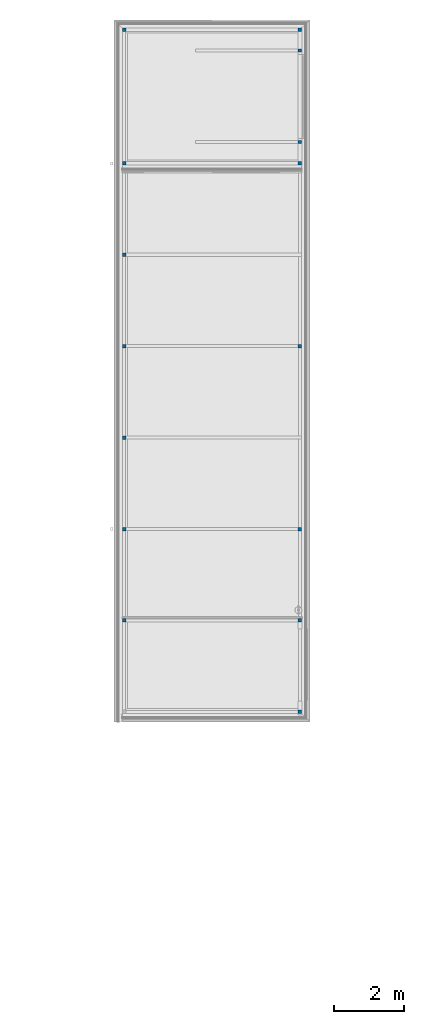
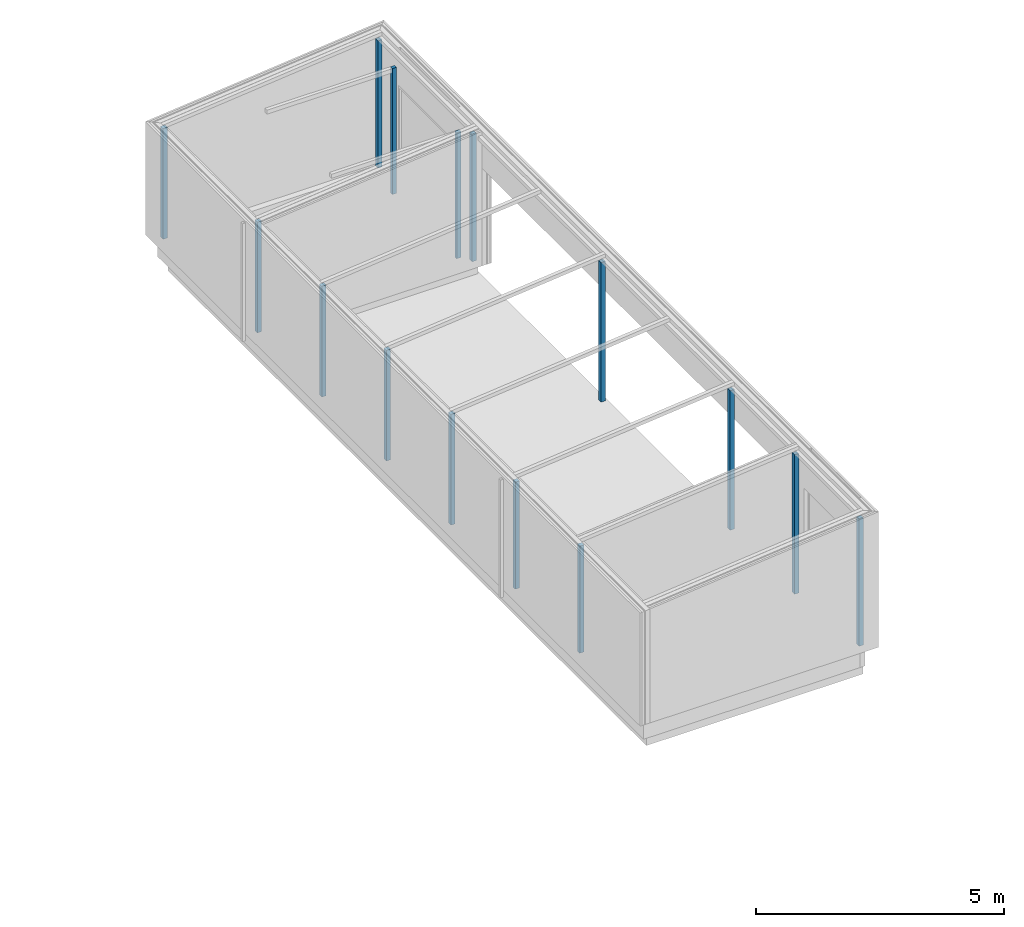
# One storey, part 7 of 112: 15 columns.
"""IFC2X3 building model written with IfcOpenShell, lengths in millimetres."""

import ifcopenshell
import ifcopenshell.guid

model = None  # the IFC model being written
_history = None  # IfcOwnerHistory: only IFC2X3 demands one
_inside = {}  # id of a spatial element -> (the spatial element, [elements in it])
_under = {}  # id of a project, library or spatial element -> (it, [spatial elements below it])
_declared = {}  # id of a project -> (the project, [libraries it declares])
_typed = {}  # id of a type object -> (the type object, [elements of that type])
_made_of = {}  # id of a material, layer set ... -> (it, [elements and type objects made of it])


def new_model(schema):
    """Start an empty IFC model of exactly this schema.

    Asked for "IFC4X3", IfcOpenShell would pick the latest addendum, in which some entities
    have other attributes; the version numbers below select the first issue.
    IFC2X3 requires an IfcOwnerHistory on every rooted entity: one is made here for all.
    """
    global model, _history
    if schema == "IFC4X3":
        model = ifcopenshell.file(schema_version=(4, 3, 0, 0))
    else:
        model = ifcopenshell.file(schema=schema)
    _inside.clear()
    _under.clear()
    _declared.clear()
    _typed.clear()
    _made_of.clear()
    _history = None
    if model.schema == "IFC2X3":
        org = make("IfcOrganization", Name="unknown")
        user = make(
            "IfcPersonAndOrganization",
            ThePerson=make("IfcPerson", FamilyName="unknown"),
            TheOrganization=org,
        )
        app = make(
            "IfcApplication",
            ApplicationDeveloper=org,
            Version="unknown",
            ApplicationFullName="unknown",
            ApplicationIdentifier="unknown",
        )
        _history = make(
            "IfcOwnerHistory",
            OwningUser=user,
            OwningApplication=app,
            ChangeAction="ADDED",
            CreationDate=0,
        )
    return model


def make(cls, **values):
    """One entity of the class cls with the attributes given. An attribute that is None is left unset."""
    return model.create_entity(
        cls, **{name: value for name, value in values.items() if value is not None}
    )


def entity(cls, *values):
    """Any entity or typed value of the class cls, its attributes in the order of the schema. None: left unset."""
    e = model.create_entity(cls)
    for i, value in enumerate(values):
        if value is not None:
            e[i] = value
    return e


def rooted(cls, **values):
    """An entity with a GlobalId (a new one), such as an element, a storey or a relation."""
    return make(cls, GlobalId=ifcopenshell.guid.new(), OwnerHistory=_history, **values)


def si_unit(unit_type, name, prefix=None):
    """IfcSIUnit, for example si_unit("LENGTHUNIT", "METRE", prefix="MILLI")."""
    return make("IfcSIUnit", UnitType=unit_type, Prefix=prefix, Name=name)


def converted_unit(unit_type, name, factor, base, dimensions=None, offset=None):
    """IfcConversionBasedUnit, such as the inch: factor (a typed value) times the base unit."""
    return make(
        "IfcConversionBasedUnit"
        if offset is None
        else "IfcConversionBasedUnitWithOffset",
        ConversionOffset=offset,
        Dimensions=None
        if dimensions is None
        else entity("IfcDimensionalExponents", *dimensions),
        UnitType=unit_type,
        Name=name,
        ConversionFactor=make(
            "IfcMeasureWithUnit", ValueComponent=factor, UnitComponent=base
        ),
    )


def derived_unit(unit_type, elements):
    """IfcDerivedUnit: a product of units, each with its exponent."""
    return make(
        "IfcDerivedUnit",
        Elements=[
            make("IfcDerivedUnitElement", Unit=unit, Exponent=power)
            for unit, power in elements
        ],
        UnitType=unit_type,
    )


def money_unit(currency):
    """IfcMonetaryUnit."""
    return make("IfcMonetaryUnit", Currency=currency)


def assignment(units):
    """IfcUnitAssignment: the units of a project."""
    return None if units is None else make("IfcUnitAssignment", Units=units)


def point(xyz):
    """IfcCartesianPoint."""
    return None if xyz is None else make("IfcCartesianPoint", Coordinates=xyz)


def direction(xyz):
    """IfcDirection."""
    return None if xyz is None else make("IfcDirection", DirectionRatios=xyz)


def frame(location, z_axis=None, x_axis=None):
    """IfcAxis2Placement3D, a coordinate frame: its origin and axes. An axis left out is left unset."""
    return make(
        "IfcAxis2Placement3D",
        Location=point(location),
        Axis=direction(z_axis),
        RefDirection=direction(x_axis),
    )


def frame_2d(location, x_axis=None):
    """IfcAxis2Placement2D, a coordinate frame in the plane: its origin and x axis."""
    return make(
        "IfcAxis2Placement2D", Location=point(location), RefDirection=direction(x_axis)
    )


def origin_with_axes():
    """The frame at (0, 0, 0) with the z axis (0, 0, 1) and the x axis (1, 0, 0) written out."""
    return frame((0.0, 0.0, 0.0), z_axis=(0.0, 0.0, 1.0), x_axis=(1.0, 0.0, 0.0))


def origin_2d_with_axis():
    """The frame at (0, 0) in the plane with the x axis (1, 0) written out."""
    return frame_2d((0.0, 0.0), x_axis=(1.0, 0.0))


def place(relative_to, where):
    """IfcLocalPlacement: puts the frame where relative to a parent placement (None: the world)."""
    return make(
        "IfcLocalPlacement", PlacementRelTo=relative_to, RelativePlacement=where
    )


def context(
    kind, dimensions, precision=None, world=None, true_north=None, identifier=None
):
    """IfcGeometricRepresentationContext, for example the 3D "Model" context."""
    return make(
        "IfcGeometricRepresentationContext",
        ContextIdentifier=identifier,
        ContextType=kind,
        CoordinateSpaceDimension=dimensions,
        Precision=precision,
        WorldCoordinateSystem=world,
        TrueNorth=true_north,
    )


def subcontext(parent, identifier, kind, view, scale=None):
    """IfcGeometricRepresentationSubContext, for example "Body" below "Model"."""
    return make(
        "IfcGeometricRepresentationSubContext",
        ContextIdentifier=identifier,
        ContextType=kind,
        ParentContext=parent,
        TargetScale=scale,
        TargetView=view,
    )


def project(units=None, contexts=None):
    """IfcProject with its units and contexts."""
    return rooted(
        "IfcProject",
        Name="project",
        RepresentationContexts=contexts,
        UnitsInContext=assignment(units),
    )


def spatial(cls, under=None, at=None, **own):
    """A site, building, storey or space (cls), placed at a placement, below another one or the project."""
    s = rooted(cls, ObjectPlacement=at, **own)
    if under is not None:
        _under.setdefault(under.id(), (under, []))[1].append(s)
    return s


def profile(cls, at=None, kind="AREA", **sizes):
    """A parametric profile (cls). Its sizes go by their IFC names, for example OverallWidth=200.0."""
    return make(cls, ProfileType=kind, Position=at, **sizes)


def rectangle(**sizes):
    """IfcRectangleProfileDef."""
    return profile("IfcRectangleProfileDef", **sizes)


def extrude(swept, where, along, depth):
    """IfcExtrudedAreaSolid: the profile swept, set in the frame where, extruded along a direction by depth."""
    return make(
        "IfcExtrudedAreaSolid",
        SweptArea=swept,
        Position=where,
        ExtrudedDirection=direction(along),
        Depth=depth,
    )


def shape(context_of_items, identifier, shape_type, items):
    """IfcShapeRepresentation: the items that make up one representation, for example the "Body"."""
    return make(
        "IfcShapeRepresentation",
        ContextOfItems=context_of_items,
        RepresentationIdentifier=identifier,
        RepresentationType=shape_type,
        Items=items,
    )


def material(Name=None, Category=None):
    """IfcMaterial."""
    return make("IfcMaterial", Name=Name, Category=Category)


def made_of(thing, what):
    """Note that an element or type object is made of a material, layer set ...; save() writes the relation."""
    if what is not None:
        _made_of.setdefault(what.id(), (what, []))[1].append(thing)
    return thing


def type_object(cls, material=None, **own):
    """A type object (cls), such as IfcWallType, which elements share."""
    return made_of(rooted(cls, **own), material)


def element(
    cls,
    number,
    at=None,
    inside=None,
    cuts=None,
    type_object=None,
    material=None,
    context=None,
    identifier="Body",
    shape_type=None,
    held_by="IfcProductDefinitionShape",
    body=None,
    shapes=None,
    **own,
):
    """One element of the class cls, such as IfcWall. Its Tag is "e" and its number.

    at: its placement. inside: the storey or other place that contains it. cuts: it is an
    opening in that element (IfcRelVoidsElement). A single representation is given by context,
    identifier, shape_type and body (its items); several are given by shapes. held_by: the class
    of the entity that holds the representations. save() writes the other relations.
    """
    e = rooted(cls, Tag="e%d" % number, ObjectPlacement=at, **own)
    if body is not None:
        shapes = [shape(context, identifier, shape_type, body)]
    if shapes is not None:
        e.Representation = make(held_by, Representations=shapes)
    if inside is not None:
        _inside.setdefault(inside.id(), (inside, []))[1].append(e)
    if cuts is not None:
        rooted(
            "IfcRelVoidsElement", RelatingBuildingElement=cuts, RelatedOpeningElement=e
        )
    if type_object is not None:
        _typed.setdefault(type_object.id(), (type_object, []))[1].append(e)
    return made_of(e, material)


def aggregate(whole, parts):
    """IfcRelAggregates: a whole, such as a stair, and the parts it consists of."""
    return rooted("IfcRelAggregates", RelatingObject=whole, RelatedObjects=parts)


def save(model, path):
    """Write the relations noted so far, then the file.

    IfcRelAggregates (storeys below a building ...), IfcRelContainedInSpatialStructure (elements
    in a storey), IfcRelDefinesByType, IfcRelAssociatesMaterial and IfcRelDeclares: one each for
    every whole, place, type object, material and project.
    """
    for whole, parts in _under.values():
        aggregate(whole, parts)
    for where, things in _inside.values():
        rooted(
            "IfcRelContainedInSpatialStructure",
            RelatedElements=things,
            RelatingStructure=where,
        )
    for kind, things in _typed.values():
        rooted("IfcRelDefinesByType", RelatedObjects=things, RelatingType=kind)
    for what, things in _made_of.values():
        rooted("IfcRelAssociatesMaterial", RelatedObjects=things, RelatingMaterial=what)
    for by, libraries in _declared.values():
        rooted("IfcRelDeclares", RelatingContext=by, RelatedDefinitions=libraries)
    model.write(path)


model = new_model("IFC2X3")

# Units and contexts
model_context = context("Model", 3, precision=0.01, world=origin_with_axes(), true_north=direction((0.0, 1.0)))
body_context = subcontext(model_context, "Body", "Model", "MODEL_VIEW")
ifc_project = project(units=[si_unit("LENGTHUNIT", "METRE", prefix="MILLI"), si_unit("AREAUNIT", "SQUARE_METRE"), si_unit("VOLUMEUNIT", "CUBIC_METRE"), converted_unit("PLANEANGLEUNIT", "DEGREE", entity("IfcPlaneAngleMeasure", 0.0174532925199), si_unit("PLANEANGLEUNIT", "RADIAN"), dimensions=[0, 0, 0, 0, 0, 0, 0]), si_unit("SOLIDANGLEUNIT", "STERADIAN"), money_unit("EUR"), converted_unit("TIMEUNIT", "Year", entity("IfcTimeMeasure", 31556926.0), si_unit("TIMEUNIT", "SECOND"), dimensions=[0, 0, 1, 0, 0, 0, 0]), si_unit("MASSUNIT", "GRAM", prefix="KILO"), si_unit("THERMODYNAMICTEMPERATUREUNIT", "DEGREE_CELSIUS"), si_unit("LUMINOUSINTENSITYUNIT", "LUMEN"), si_unit("ENERGYUNIT", "JOULE", prefix="MEGA"), derived_unit("THERMALCONDUCTANCEUNIT", [(si_unit("POWERUNIT", "WATT"), 1), (si_unit("LENGTHUNIT", "METRE"), -1), (si_unit("THERMODYNAMICTEMPERATUREUNIT", "KELVIN"), -1)]), derived_unit("SPECIFICHEATCAPACITYUNIT", [(si_unit("ENERGYUNIT", "JOULE"), 1), (si_unit("MASSUNIT", "GRAM", prefix="KILO"), -1), (si_unit("THERMODYNAMICTEMPERATUREUNIT", "KELVIN"), -1)]), derived_unit("MASSDENSITYUNIT", [(si_unit("MASSUNIT", "GRAM", prefix="KILO"), 1), (si_unit("VOLUMEUNIT", "CUBIC_METRE"), -1)])], contexts=[model_context])

# Site, building, storey
site_placement = place(None, origin_with_axes())
site = spatial("IfcSite", under=ifc_project, at=site_placement, Name="Politse- ja Piirivalveameti ning Päästeameti ühishoone", CompositionType="ELEMENT")
building_placement = place(site_placement, origin_with_axes())
building = spatial("IfcBuilding", under=site, at=building_placement, Name="Politse- ja Piirivalveameti ning Päästeameti ühishoone", CompositionType="ELEMENT")
storey_placement = place(building_placement, origin_with_axes())
storey = spatial("IfcBuildingStorey", under=building, at=storey_placement, Name="Esimene korrus", CompositionType="ELEMENT", Elevation=0.0)

# Columns
ifc_material = material(Name="KON-00_GENEERILINE - KONSTRUKTSIOON")
column_type_1 = type_object("IfcColumnType", Name="KON-00_GENEERILINE - KONSTRUKTSIOON 100 x 100", PredefinedType="COLUMN")
column_1_placement = place(storey_placement, frame((46341.8237405, 64149.8510263, 300.0), z_axis=(0.0, 0.0, 1.0), x_axis=(0.0, -1.0, 0.0)))
element("IfcColumn", 1, at=column_1_placement, inside=storey, type_object=column_type_1, material=ifc_material, Name="POST", ObjectType="COLUMN", context=body_context, shape_type="SweptSolid", body=[
    extrude(rectangle(XDim=100.0, YDim=100.0, at=origin_2d_with_axis()), origin_with_axes(), (0.0, 0.0, 1.0), 2723.99723308),
])
for number, where, z_axis, x_axis, name in (
    (2, (51341.8237405, 64149.8510263, 300.0), (0.0, 0.0, 1.0), (0.0, -1.0, 0.0), "POST"),
    (3, (51341.8237405, 60349.8510263, 300.0), (0.0, 0.0, 1.0), (0.0, -1.0, 0.0), "POST"),
):
    element("IfcColumn", number, at=place(storey_placement, frame(where, z_axis=z_axis, x_axis=x_axis)), inside=storey, type_object=column_type_1, material=ifc_material, Name=name, ObjectType="COLUMN", context=body_context, shape_type="SweptSolid", body=[
        extrude(rectangle(XDim=100.0, YDim=100.0, at=origin_2d_with_axis()), origin_with_axes(), (0.0, 0.0, 1.0), 3132.56451409),
    ])
column_2_placement = place(storey_placement, frame((46341.8237405, 60349.8510263, 300.0), z_axis=(0.0, 0.0, 1.0), x_axis=(0.0, -1.0, 0.0)))
element("IfcColumn", 4, at=column_2_placement, inside=storey, type_object=column_type_1, material=ifc_material, Name="POST", ObjectType="COLUMN", context=body_context, shape_type="SweptSolid", body=[
    extrude(rectangle(XDim=100.0, YDim=100.0, at=origin_2d_with_axis()), origin_with_axes(), (0.0, 0.0, 1.0), 2723.99723308),
])
for number, where, z_axis, x_axis, name in (
    (5, (51341.8237405, 55149.8510263, 0.0), (0.0, 0.0, 1.0), (0.0, -1.0, 0.0), "POST"),
    (6, (51341.8237405, 49949.8510263, 0.0), (0.0, 0.0, 1.0), (0.0, -1.0, 0.0), "POST"),
):
    element("IfcColumn", number, at=place(storey_placement, frame(where, z_axis=z_axis, x_axis=x_axis)), inside=storey, type_object=column_type_1, material=ifc_material, Name=name, ObjectType="COLUMN", context=body_context, shape_type="SweptSolid", body=[
        extrude(rectangle(XDim=100.0, YDim=100.0, at=origin_2d_with_axis()), origin_with_axes(), (0.0, 0.0, 1.0), 3432.56451409),
    ])
column_3_placement = place(storey_placement, frame((51341.8237405, 44749.8510263, 300.0), z_axis=(0.0, 0.0, 1.0), x_axis=(0.0, -1.0, 0.0)))
element("IfcColumn", 7, at=column_3_placement, inside=storey, type_object=column_type_1, material=ifc_material, Name="POST", ObjectType="COLUMN", context=body_context, shape_type="SweptSolid", body=[
    extrude(rectangle(XDim=100.0, YDim=100.0, at=origin_2d_with_axis()), origin_with_axes(), (0.0, 0.0, 1.0), 3132.56451409),
])
for number, where, z_axis, x_axis, name in (
    (8, (46341.8237405, 57749.8510263, 300.0), (0.0, 0.0, 1.0), (0.0, -1.0, 0.0), "POST"),
    (9, (46341.8237405, 55149.8510263, 300.0), (0.0, 0.0, 1.0), (0.0, -1.0, 0.0), "POST"),
    (10, (46341.8237405, 52549.8510263, 300.0), (0.0, 0.0, 1.0), (0.0, -1.0, 0.0), "POST"),
):
    element("IfcColumn", number, at=place(storey_placement, frame(where, z_axis=z_axis, x_axis=x_axis)), inside=storey, type_object=column_type_1, material=ifc_material, Name=name, ObjectType="COLUMN", context=body_context, shape_type="SweptSolid", body=[
        extrude(rectangle(XDim=100.0, YDim=100.0, at=origin_2d_with_axis()), origin_with_axes(), (0.0, 0.0, 1.0), 2723.99723308),
    ])
for number, where, z_axis, x_axis, name in (
    (11, (46341.8237405, 49949.8510263, 300.0), (0.0, 0.0, 1.0), (0.0, -1.0, 0.0), "POST"),
    (12, (46341.8237405, 47349.8510263, 300.0), (0.0, 0.0, 1.0), (0.0, -1.0, 0.0), "POST"),
):
    element("IfcColumn", number, at=place(storey_placement, frame(where, z_axis=z_axis, x_axis=x_axis)), inside=storey, type_object=column_type_1, material=ifc_material, Name=name, ObjectType="COLUMN", context=body_context, shape_type="SweptSolid", body=[
        extrude(rectangle(XDim=100.0, YDim=100.0, at=origin_2d_with_axis()), origin_with_axes(), (0.0, 0.0, 1.0), 2633.49816673),
    ])
column_4_placement = place(storey_placement, frame((51341.8237405, 47349.8510263, 0.0), z_axis=(0.0, 0.0, 1.0), x_axis=(0.0, -1.0, 0.0)))
element("IfcColumn", 13, at=column_4_placement, inside=storey, type_object=column_type_1, material=ifc_material, Name="POST", ObjectType="COLUMN", context=body_context, shape_type="SweptSolid", body=[
    extrude(rectangle(XDim=100.0, YDim=100.0, at=origin_2d_with_axis()), origin_with_axes(), (0.0, 0.0, 1.0), 3432.56451409),
])
column_type_2 = type_object("IfcColumnType", Name="KON-00_GENEERILINE - KONSTRUKTSIOON 80 x 100", PredefinedType="COLUMN")
for number, where, z_axis, x_axis, name in (
    (14, (51341.8237405, 60956.213859, 0.0), (0.0, 0.0, 1.0), (0.0, 1.0, 0.0), "POST"),
    (15, (51341.8237405, 63559.6880475, 0.0), (0.0, 0.0, 1.0), (0.0, 1.0, 0.0), "POST"),
):
    element("IfcColumn", number, at=place(storey_placement, frame(where, z_axis=z_axis, x_axis=x_axis)), inside=storey, type_object=column_type_2, material=ifc_material, Name=name, ObjectType="COLUMN", context=body_context, shape_type="SweptSolid", body=[
        extrude(rectangle(XDim=80.0, YDim=100.0, at=origin_2d_with_axis()), origin_with_axes(), (0.0, 0.0, 1.0), 3100.0),
    ])

save(model, "model.ifc")
